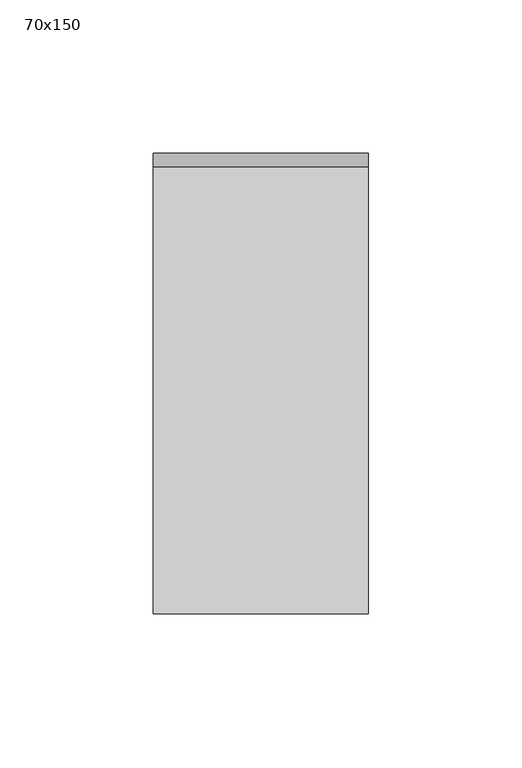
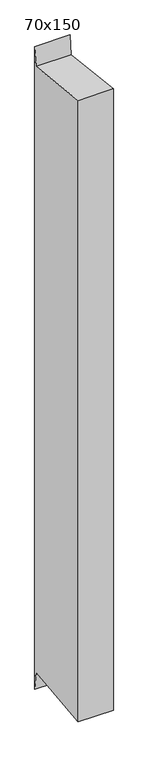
"""IFC4 building model written with IfcOpenShell, lengths in millimetres: member geometry, 長方形のマリオン : 70x150."""

from ifc_helpers import new_model, si_unit, frame, origin, place, context, project, spatial, polyline, outline, extrude, source, transform, mapped, element, save


def member_70x150_b13c434b(model_context):
    return source(origin(), model_context, "Body", "SweptSolid", [
        extrude(outline(polyline([(-75.0, 8.1118336), (70.6798324, -8.0622955), (75.0, 30.8493077), (75.0, -1323.2491282), (70.6798324, -1284.337525), (-75.0, -1300.5116542), (-75.0, 8.1118336)])), frame((-70.0, 0.0, 0.0), z_axis=(1.0, 0.0, 0.0), x_axis=(0.0, 1.0, 0.0)), (0.0, 0.0, 1.0), 70.0),
    ])


if __name__ == "__main__":
    model = new_model("IFC4")
    model_context = context("Model", 3, world=origin())
    ifc_project = project(units=[si_unit("LENGTHUNIT", "METRE", prefix="MILLI")], contexts=[model_context])
    site = spatial("IfcSite", under=ifc_project)
    building = spatial("IfcBuilding", under=site)
    placement = place(None, origin())
    member_70x150_shape = member_70x150_b13c434b(model_context)
    element("IfcMember", 1, ObjectType="長方形のマリオン : 70x150", at=placement, inside=building, context=model_context, shape_type="MappedRepresentation", body=[
        mapped(member_70x150_shape, transform((0.0, 0.0, 0.0), x_axis=(1.0, 0.0, 0.0), y_axis=(0.0, 1.0, 0.0), z_axis=(0.0, 0.0, 1.0))),
    ])
    save(model, "model.ifc")
